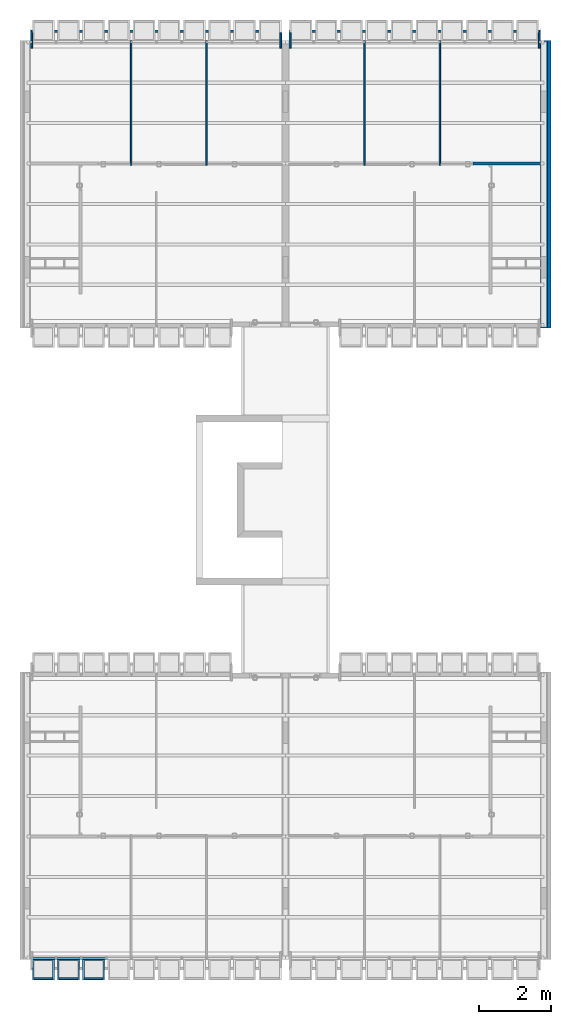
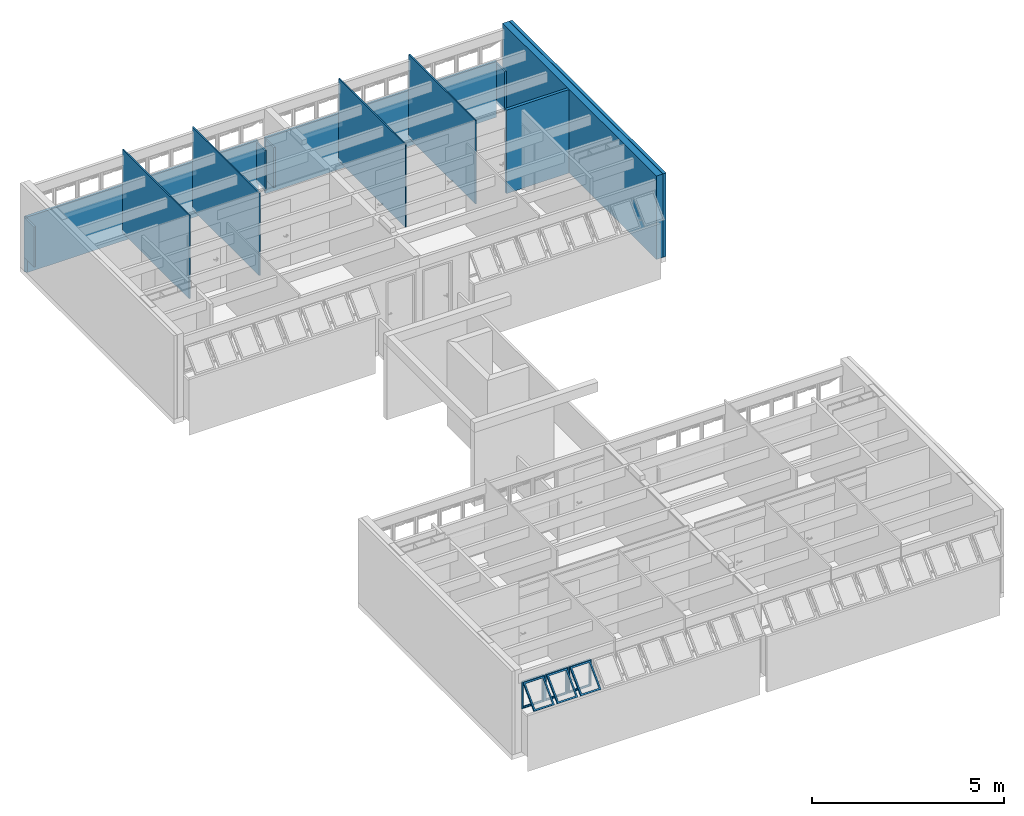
# One storey, part 26 of 37: 13 walls, 3 building element parts, 4 elements without a shape of their own.
"""IFC2X3 building model written with IfcOpenShell, lengths in millimetres."""

from ifc_helpers import new_model, entity, si_unit, converted_unit, derived_unit, money_unit, direction, frame, origin_with_axes, place, context, subcontext, project, spatial, polyline, outline, extrude, faceted_brep, source, transform, mapped, material, layer, layer_set, layer_usage, type_object, element, aggregate, save


model = new_model("IFC2X3")

# Units and contexts
model_context = context("Model", 3, precision=0.01, world=origin_with_axes(), true_north=direction((0.0, 1.0)))
body_context = subcontext(model_context, "Body", "Model", "MODEL_VIEW")
ifc_project = project(units=[si_unit("LENGTHUNIT", "METRE", prefix="MILLI"), si_unit("AREAUNIT", "SQUARE_METRE"), si_unit("VOLUMEUNIT", "CUBIC_METRE"), converted_unit("PLANEANGLEUNIT", "DEGREE", entity("IfcPlaneAngleMeasure", 0.0174532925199), si_unit("PLANEANGLEUNIT", "RADIAN"), dimensions=[0, 0, 0, 0, 0, 0, 0]), money_unit("USD"), converted_unit("TIMEUNIT", "Year", entity("IfcTimeMeasure", 31556926.0), si_unit("TIMEUNIT", "SECOND"), dimensions=[0, 0, 1, 0, 0, 0, 0]), si_unit("MASSUNIT", "GRAM", prefix="KILO"), si_unit("THERMODYNAMICTEMPERATUREUNIT", "DEGREE_CELSIUS"), si_unit("LUMINOUSINTENSITYUNIT", "LUMEN"), si_unit("ENERGYUNIT", "JOULE", prefix="MEGA"), derived_unit("THERMALCONDUCTANCEUNIT", [(si_unit("POWERUNIT", "WATT"), 1), (si_unit("LENGTHUNIT", "METRE"), -1), (si_unit("THERMODYNAMICTEMPERATUREUNIT", "KELVIN"), -1)]), derived_unit("SPECIFICHEATCAPACITYUNIT", [(si_unit("ENERGYUNIT", "JOULE"), 1), (si_unit("MASSUNIT", "GRAM", prefix="KILO"), -1), (si_unit("THERMODYNAMICTEMPERATUREUNIT", "KELVIN"), -1)]), derived_unit("MASSDENSITYUNIT", [(si_unit("MASSUNIT", "GRAM", prefix="KILO"), 1), (si_unit("VOLUMEUNIT", "CUBIC_METRE"), -1)])], contexts=[model_context])

# Site, building, storey
site_placement = place(None, origin_with_axes())
site = spatial("IfcSite", under=ifc_project, at=site_placement, Name="Local", CompositionType="ELEMENT")
building_placement = place(site_placement, origin_with_axes())
building = spatial("IfcBuilding", under=site, at=building_placement, Name="Construção", CompositionType="ELEMENT")
storey_placement = place(building_placement, frame((0.0, 0.0, 5300.0), z_axis=(0.0, 0.0, 1.0), x_axis=(1.0, 0.0, 0.0)))
storey = spatial("IfcBuildingStorey", under=building, at=storey_placement, Name="Terceiro Pavimento", CompositionType="ELEMENT", Elevation=5300.0)

# Walls
ifc_material_1 = material(Name="GENÉRICO - VEDAÇÃO EXTERNA")
ifc_layer_1 = layer(ifc_material_1, 190.0, ventilated="UNKNOWN")
ifc_layer_set_1 = layer_set([ifc_layer_1], Name="GENÉRICO - VEDAÇÃO EXTERNA 190")
ifc_layer_usage_1 = layer_usage(ifc_layer_set_1, "AXIS2", "NEGATIVE", 0.0)
wall_type_1 = type_object("IfcWallType", Name="GENÉRICO - VEDAÇÃO EXTERNA 190", PredefinedType="NOTDEFINED")
wall_1_placement = place(storey_placement, frame((14480.0, 17860.0, 0.0), z_axis=(0.0, 0.0, 1.0), x_axis=(0.0, 1.0, 0.0)))
element("IfcWallStandardCase", 1, at=wall_1_placement, inside=storey, type_object=wall_type_1, material=ifc_layer_usage_1, Name="APTO12-PAREDE-013", context=body_context, shape_type="SweptSolid", body=[
    extrude(outline(polyline([(0.0, -190.0), (8000.0, -190.0), (8000.0, 0.0), (0.0, 0.0), (0.0, -190.0)])), origin_with_axes(), (0.0, 0.0, 1.0), 2650.0),
])
ifc_layer_2 = layer(ifc_material_1, 40.0, ventilated="UNKNOWN")
ifc_layer_set_2 = layer_set([ifc_layer_2], Name="GENÉRICO - VEDAÇÃO EXTERNA 40")
ifc_layer_usage_2 = layer_usage(ifc_layer_set_2, "AXIS2", "POSITIVE", 0.0)
wall_type_2 = type_object("IfcWallType", Name="GENÉRICO - VEDAÇÃO EXTERNA 40", PredefinedType="NOTDEFINED")
wall_2_placement = place(storey_placement, frame((5210.0, 22395.0, 0.0), z_axis=(0.0, 0.0, 1.0), x_axis=(0.0, 1.0, 0.0)))
element("IfcWallStandardCase", 2, at=wall_2_placement, inside=storey, type_object=wall_type_2, material=ifc_layer_usage_2, Name="APTO11-PAREDE-005", context=body_context, shape_type="SweptSolid", body=[
    extrude(outline(polyline([(0.0, 0.0), (3465.0, 0.0), (3465.0, 40.0), (0.0, 40.0), (0.0, 0.0)])), origin_with_axes(), (0.0, 0.0, 1.0), 2620.0),
])
ifc_layer_usage_3 = layer_usage(ifc_layer_set_2, "AXIS2", "POSITIVE", 0.0)
wall_3_placement = place(storey_placement, frame((3110.0, 22395.0, 0.0), z_axis=(0.0, 0.0, 1.0), x_axis=(0.0, 1.0, 0.0)))
element("IfcWallStandardCase", 3, at=wall_3_placement, inside=storey, type_object=wall_type_2, material=ifc_layer_usage_3, Name="APTO11-PAREDE-007", context=body_context, shape_type="SweptSolid", body=[
    extrude(outline(polyline([(0.0, 0.0), (3465.0, 0.0), (3465.0, 40.0), (0.0, 40.0), (0.0, 0.0)])), origin_with_axes(), (0.0, 0.0, 1.0), 2650.0),
])
ifc_layer_usage_4 = layer_usage(ifc_layer_set_2, "AXIS2", "NEGATIVE", 0.0)
wall_4_placement = place(storey_placement, frame((9560.0, 22395.0, 0.0), z_axis=(0.0, 0.0, 1.0), x_axis=(0.0, 1.0, 0.0)))
element("IfcWallStandardCase", 4, at=wall_4_placement, inside=storey, type_object=wall_type_2, material=ifc_layer_usage_4, Name="APTO12-PAREDE-005", context=body_context, shape_type="SweptSolid", body=[
    extrude(outline(polyline([(0.0, -40.0), (3465.0, -40.0), (3465.0, 0.0), (0.0, 0.0), (0.0, -40.0)])), origin_with_axes(), (0.0, 0.0, 1.0), 2620.0),
])
ifc_layer_usage_5 = layer_usage(ifc_layer_set_2, "AXIS2", "NEGATIVE", 0.0)
wall_5_placement = place(storey_placement, frame((11660.0, 22395.0, 0.0), z_axis=(0.0, 0.0, 1.0), x_axis=(0.0, 1.0, 0.0)))
element("IfcWallStandardCase", 5, at=wall_5_placement, inside=storey, type_object=wall_type_2, material=ifc_layer_usage_5, Name="APTO12-PAREDE-007", context=body_context, shape_type="SweptSolid", body=[
    extrude(outline(polyline([(0.0, -40.0), (3465.0, -40.0), (3465.0, 0.0), (0.0, 0.0), (0.0, -40.0)])), origin_with_axes(), (0.0, 0.0, 1.0), 2650.0),
])
ifc_layer_3 = layer(ifc_material_1, 90.0, ventilated="UNKNOWN")
ifc_layer_set_3 = layer_set([ifc_layer_3], Name="GENÉRICO - VEDAÇÃO EXTERNA 90")
ifc_layer_usage_6 = layer_usage(ifc_layer_set_3, "AXIS2", "NEGATIVE", 0.0)
wall_type_3 = type_object("IfcWallType", Name="GENÉRICO - VEDAÇÃO EXTERNA 90", PredefinedType="NOTDEFINED")
wall_6_placement = place(storey_placement, frame((14480.0, 22394.7804333, 0.0), z_axis=(0.0, 0.0, 1.0), x_axis=(-1.0, 0.0, 0.0)))
element("IfcWallStandardCase", 6, at=wall_6_placement, inside=storey, type_object=wall_type_3, material=ifc_layer_usage_6, Name="APTO12-PAREDE-019", context=body_context, shape_type="SweptSolid", body=[
    extrude(outline(polyline([(0.0, -90.0), (1879.99807021, -90.0), (1880.0, 0.0), (0.0, 0.0), (0.0, -90.0)])), origin_with_axes(), (0.0, 0.0, 1.0), 2650.0),
])
ifc_layer_usage_7 = layer_usage(ifc_layer_set_3, "AXIS2", "NEGATIVE", 0.0)
wall_7_placement = place(storey_placement, frame((14680.0, 17860.0, 0.0), z_axis=(0.0, 0.0, 1.0), x_axis=(0.0, 1.0, 0.0)))
element("IfcWallStandardCase", 7, at=wall_7_placement, inside=storey, type_object=wall_type_3, material=ifc_layer_usage_7, Name="APTO12-PAREDE-014", context=body_context, shape_type="SweptSolid", body=[
    extrude(outline(polyline([(0.0, -90.0), (8000.0, -90.0), (8000.0, 0.0), (0.0, 0.0), (0.0, -90.0)])), origin_with_axes(), (0.0, 0.0, 1.0), 2650.0),
])
ifc_material_2 = material(Name="Concreto Armado Moldado in Loco - Estrutural")
ifc_layer_4 = layer(ifc_material_2, 50.0, ventilated="UNKNOWN")
ifc_layer_set_4 = layer_set([ifc_layer_4], Name="Concreto Armado Moldado in Loco - Estrutural 50")
ifc_layer_usage_8 = layer_usage(ifc_layer_set_4, "AXIS2", "POSITIVE", -50.0)
wall_type_4 = type_object("IfcWallType", Name="Concreto Armado Moldado in Loco - Estrutural 50", PredefinedType="NOTDEFINED")
wall_8_placement = place(storey_placement, frame((300.0, 25650.0, 0.0), z_axis=(0.0, 0.0, 1.0), x_axis=(0.0, 1.0, 0.0)))
element("IfcWallStandardCase", 8, at=wall_8_placement, inside=storey, type_object=wall_type_4, material=ifc_layer_usage_8, Name="APTO11-PAREDE-002", context=body_context, shape_type="SweptSolid", body=[
    extrude(outline(polyline([(0.0, -50.0), (430.0, -50.0), (510.0, 0.0), (0.0, 0.0), (0.0, -50.0)])), origin_with_axes(), (0.0, 0.0, 1.0), 1270.0),
])
ifc_layer_usage_9 = layer_usage(ifc_layer_set_4, "AXIS2", "POSITIVE", -50.0)
wall_9_placement = place(storey_placement, frame((7230.0, 25650.0, 0.0), z_axis=(0.0, 0.0, 1.0), x_axis=(0.0, 1.0, 0.0)))
element("IfcWallStandardCase", 9, at=wall_9_placement, inside=storey, type_object=wall_type_4, material=ifc_layer_usage_9, Name="APTO11-PAREDE-001", context=body_context, shape_type="SweptSolid", body=[
    extrude(outline(polyline([(0.0, -50.0), (435.0, -50.0), (435.0, 0.0), (0.0, 0.0), (0.0, -50.0)])), origin_with_axes(), (0.0, 0.0, 1.0), 1270.0),
])
ifc_layer_usage_10 = layer_usage(ifc_layer_set_4, "AXIS2", "NEGATIVE", 50.0)
wall_10_placement = place(storey_placement, frame((14470.0, 25650.0, 0.0), z_axis=(0.0, 0.0, 1.0), x_axis=(0.0, 1.0, 0.0)))
element("IfcWallStandardCase", 10, at=wall_10_placement, inside=storey, type_object=wall_type_4, material=ifc_layer_usage_10, Name="APTO12-PAREDE-002", context=body_context, shape_type="SweptSolid", body=[
    extrude(outline(polyline([(0.0, 0.0), (510.0, 0.0), (430.0, 50.0), (0.0, 50.0), (0.0, 0.0)])), origin_with_axes(), (0.0, 0.0, 1.0), 1270.0),
])
ifc_layer_usage_11 = layer_usage(ifc_layer_set_4, "AXIS2", "NEGATIVE", 50.0)
wall_11_placement = place(storey_placement, frame((7540.0, 25650.0, 0.0), z_axis=(0.0, 0.0, 1.0), x_axis=(0.0, 1.0, 0.0)))
element("IfcWallStandardCase", 11, at=wall_11_placement, inside=storey, type_object=wall_type_4, material=ifc_layer_usage_11, Name="APTO12-PAREDE-001", context=body_context, shape_type="SweptSolid", body=[
    extrude(outline(polyline([(0.0, 0.0), (435.0, 0.0), (435.0, 50.0), (0.0, 50.0), (0.0, 0.0)])), origin_with_axes(), (0.0, 0.0, 1.0), 1270.0),
])
ifc_layer_5 = layer(ifc_material_2, 80.0, ventilated="UNKNOWN")
ifc_layer_set_5 = layer_set([ifc_layer_5], Name="Concreto Armado Moldado in Loco - Estrutural 80")
ifc_layer_usage_12 = layer_usage(ifc_layer_set_5, "AXIS2", "NEGATIVE", 80.0)
wall_type_5 = type_object("IfcWallType", Name="Concreto Armado Moldado in Loco - Estrutural 80", PredefinedType="NOTDEFINED")
wall_12_placement = place(storey_placement, frame((300.0, 26080.0, -450.0), z_axis=(0.0, 0.0, 1.0), x_axis=(1.0, 0.0, 0.0)))
element("IfcWallStandardCase", 12, at=wall_12_placement, inside=storey, type_object=wall_type_5, material=ifc_layer_usage_12, Name="APTO11-PAREDE-015", context=body_context, shape_type="SweptSolid", body=[
    extrude(outline(polyline([(50.0, 0.0), (6980.0, 0.0), (6980.0, 80.0), (0.0, 80.0), (50.0, 0.0)])), origin_with_axes(), (0.0, 0.0, 1.0), 1765.0),
])
ifc_layer_usage_13 = layer_usage(ifc_layer_set_5, "AXIS2", "POSITIVE", -80.0)
wall_13_placement = place(storey_placement, frame((14470.0, 26080.0, -450.0), z_axis=(0.0, 0.0, 1.0), x_axis=(-1.0, 0.0, 0.0)))
element("IfcWallStandardCase", 13, at=wall_13_placement, inside=storey, type_object=wall_type_5, material=ifc_layer_usage_13, Name="APTO12-PAREDE-015", context=body_context, shape_type="SweptSolid", body=[
    extrude(outline(polyline([(0.0, -80.0), (6980.0, -80.0), (6980.0, 0.0), (50.0, 0.0), (0.0, -80.0)])), origin_with_axes(), (0.0, 0.0, 1.0), 1765.0),
])

# Window, plates, building element parts
window_style = type_object("IfcWindowStyle", Name="Tipo de Parede Cortina", ConstructionType="NOTDEFINED", OperationType="NOTDEFINED", ParameterTakesPrecedence=False, Sizeable=False)
window_placement = place(storey_placement, frame((6250.0, 315.020977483, 1355.02054151), z_axis=(0.0, 0.0, 1.0), x_axis=(1.0, 0.0, 0.0)))
window = element("IfcWindow", 14, at=window_placement, inside=storey, type_object=window_style, Name="APTO9-JANELA-001")
plate_type = type_object("IfcPlateType", Name="Painel Principal 690 x 845 x 20", PredefinedType="CURTAIN_PANEL")
plate_1_placement = place(window_placement, frame((-5600.0, 0.0, 422.499945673), z_axis=(0.0, 0.0, 1.0), x_axis=(-1.0, 0.0, 0.0)))
plate_1 = element("IfcPlate", 15, at=plate_1_placement, type_object=plate_type, Name="APTO9-Painel-Prin-013")
ifc_material_3 = material(Name="Alumínio")
shared_shape_1 = source(origin_with_axes(), body_context, "Body", "Brep", [
    faceted_brep([(25.0000036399, 0.0, -40.0), (674.999997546, 0.0, -40.0), (674.999997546, 0.0, -35.0), (25.0000036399, 0.0, -35.0), (70.0000036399, 45.0, -40.0), (629.999997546, 45.0, -40.0), (629.999997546, 45.0, -35.0), (70.0000036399, 45.0, -35.0)], [[[0, 1, 2, 3]], [[0, 4, 5, 1]], [[1, 5, 6, 2]], [[3, 2, 6, 7]], [[4, 0, 3, 7]], [[5, 4, 7, 6]]]),
    faceted_brep([(674.999997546, 0.0, -40.0), (674.999997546, 844.999891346, -40.0), (674.999997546, 844.999891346, -35.0), (674.999997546, 0.0, -35.0), (629.999997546, 45.0, -40.0), (629.999997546, 799.999891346, -40.0), (629.999997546, 799.999891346, -35.0), (629.999997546, 45.0, -35.0)], [[[0, 1, 2, 3]], [[0, 4, 5, 1]], [[1, 5, 6, 2]], [[3, 2, 6, 7]], [[4, 0, 3, 7]], [[5, 4, 7, 6]]]),
    faceted_brep([(25.0000036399, 844.999891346, -40.0), (70.0000036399, 799.999891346, -40.0), (70.0000036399, 799.999891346, -35.0), (25.0000036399, 844.999891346, -35.0), (674.999997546, 844.999891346, -40.0), (629.999997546, 799.999891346, -40.0), (629.999997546, 799.999891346, -35.0), (674.999997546, 844.999891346, -35.0)], [[[0, 1, 2, 3]], [[0, 4, 5, 1]], [[1, 5, 6, 2]], [[3, 2, 6, 7]], [[4, 0, 3, 7]], [[5, 4, 7, 6]]]),
    faceted_brep([(25.0000036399, 0.0, -40.0), (70.0000036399, 45.0, -40.0), (70.0000036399, 45.0, -35.0), (25.0000036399, 0.0, -35.0), (25.0000036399, 844.999891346, -40.0), (70.0000036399, 799.999891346, -40.0), (70.0000036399, 799.999891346, -35.0), (25.0000036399, 844.999891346, -35.0)], [[[0, 1, 2, 3]], [[0, 4, 5, 1]], [[1, 5, 6, 2]], [[3, 2, 6, 7]], [[4, 0, 3, 7]], [[5, 4, 7, 6]]]),
    faceted_brep([(25.0000036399, 0.0, -35.0), (674.999997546, 0.0, -35.0), (674.999997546, 0.0, 15.0), (25.0000036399, 0.0, 15.0), (45.0000036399, 20.0, -35.0), (654.999997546, 20.0, -35.0), (654.999997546, 20.0, 15.0), (45.0000036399, 20.0, 15.0)], [[[0, 1, 2, 3]], [[0, 4, 5, 1]], [[1, 5, 6, 2]], [[3, 2, 6, 7]], [[4, 0, 3, 7]], [[5, 4, 7, 6]]]),
    faceted_brep([(674.999997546, 0.0, -35.0), (674.999997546, 844.999891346, -35.0), (674.999997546, 844.999891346, 15.0), (674.999997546, 0.0, 15.0), (654.999997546, 20.0, -35.0), (654.999997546, 824.999891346, -35.0), (654.999997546, 824.999891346, 15.0), (654.999997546, 20.0, 15.0)], [[[0, 1, 2, 3]], [[0, 4, 5, 1]], [[1, 5, 6, 2]], [[3, 2, 6, 7]], [[4, 0, 3, 7]], [[5, 4, 7, 6]]]),
    faceted_brep([(25.0000036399, 844.999891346, -35.0), (45.0000036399, 824.999891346, -35.0), (45.0000036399, 824.999891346, 15.0), (25.0000036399, 844.999891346, 15.0), (674.999997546, 844.999891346, -35.0), (654.999997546, 824.999891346, -35.0), (654.999997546, 824.999891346, 15.0), (674.999997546, 844.999891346, 15.0)], [[[0, 1, 2, 3]], [[0, 4, 5, 1]], [[1, 5, 6, 2]], [[3, 2, 6, 7]], [[4, 0, 3, 7]], [[5, 4, 7, 6]]]),
    faceted_brep([(25.0000036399, 0.0, -35.0), (45.0000036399, 20.0, -35.0), (45.0000036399, 20.0, 15.0), (25.0000036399, 0.0, 15.0), (25.0000036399, 844.999891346, -35.0), (45.0000036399, 824.999891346, -35.0), (45.0000036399, 824.999891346, 15.0), (25.0000036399, 844.999891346, 15.0)], [[[0, 1, 2, 3]], [[0, 4, 5, 1]], [[1, 5, 6, 2]], [[3, 2, 6, 7]], [[4, 0, 3, 7]], [[5, 4, 7, 6]]]),
    faceted_brep([(694.999995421, 0.0, -10.0), (694.999995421, 844.999891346, -10.0), (694.999995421, 844.999891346, 10.0), (694.999995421, 0.0, 10.0), (674.999997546, 0.0, -10.0), (674.999997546, 844.999891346, -10.0), (674.999997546, 844.999891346, 10.0), (674.999997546, 0.0, 10.0)], [[[0, 1, 2, 3]], [[0, 4, 5, 1]], [[1, 5, 6, 2]], [[3, 2, 6, 7]], [[4, 0, 3, 7]], [[5, 4, 7, 6]]]),
    faceted_brep([(5.00000576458, 844.999891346, -10.0), (5.00000576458, 0.0, -10.0), (5.00000576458, 0.0, 10.0), (5.00000576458, 844.999891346, 10.0), (25.0000036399, 844.999891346, -10.0), (25.0000036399, 0.0, -10.0), (25.0000036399, 0.0, 10.0), (25.0000036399, 844.999891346, 10.0)], [[[0, 1, 2, 3]], [[0, 4, 5, 1]], [[1, 5, 6, 2]], [[3, 2, 6, 7]], [[4, 0, 3, 7]], [[5, 4, 7, 6]]]),
    faceted_brep([(90.0000036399, 252.243475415, 517.045737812), (90.0000036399, 757.824747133, 11.4644660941), (90.0000036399, 796.715620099, 50.3553390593), (90.0000036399, 291.13434838, 555.936610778), (45.0000036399, 220.423670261, 548.865542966), (45.0000036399, 789.644552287, -20.3553390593), (45.0000036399, 828.535425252, 18.5355339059), (45.0000036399, 259.314543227, 587.756415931)], [[[0, 1, 2, 3]], [[0, 4, 5, 1]], [[1, 5, 6, 2]], [[3, 2, 6, 7]], [[4, 0, 3, 7]], [[5, 4, 7, 6]]]),
    faceted_brep([(654.999997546, 220.423670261, 548.865542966), (654.999997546, 789.644552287, -20.3553390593), (654.999997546, 828.535425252, 18.5355339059), (654.999997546, 259.314543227, 587.756415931), (609.999997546, 252.243475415, 517.045737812), (609.999997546, 757.824747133, 11.4644660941), (609.999997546, 796.715620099, 50.3553390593), (609.999997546, 291.13434838, 555.936610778)], [[[0, 1, 2, 3]], [[0, 4, 5, 1]], [[1, 5, 6, 2]], [[3, 2, 6, 7]], [[4, 0, 3, 7]], [[5, 4, 7, 6]]]),
    faceted_brep([(654.999997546, 220.423670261, 548.865542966), (609.999997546, 252.243475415, 517.045737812), (609.999997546, 291.13434838, 555.936610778), (654.999997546, 259.314543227, 587.756415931), (45.0000036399, 220.423670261, 548.865542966), (90.0000036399, 252.243475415, 517.045737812), (90.0000036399, 291.13434838, 555.936610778), (45.0000036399, 259.314543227, 587.756415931)], [[[0, 1, 2, 3]], [[0, 4, 5, 1]], [[1, 5, 6, 2]], [[3, 2, 6, 7]], [[4, 0, 3, 7]], [[5, 4, 7, 6]]]),
    faceted_brep([(45.0000036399, 789.644552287, -20.3553390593), (90.0000036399, 757.824747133, 11.4644660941), (90.0000036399, 796.715620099, 50.3553390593), (45.0000036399, 828.535425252, 18.5355339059), (654.999997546, 789.644552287, -20.3553390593), (609.999997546, 757.824747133, 11.4644660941), (609.999997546, 796.715620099, 50.3553390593), (654.999997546, 828.535425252, 18.5355339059)], [[[0, 1, 2, 3]], [[0, 4, 5, 1]], [[1, 5, 6, 2]], [[3, 2, 6, 7]], [[4, 0, 3, 7]], [[5, 4, 7, 6]]]),
])
building_element_part_1_placement = place(plate_1_placement, origin_with_axes())
building_element_part_1 = element("IfcBuildingElementPart", 16, at=building_element_part_1_placement, material=ifc_material_3, Name="Alumínio", context=body_context, shape_type="MappedRepresentation", body=[
    mapped(shared_shape_1, transform((350.0, 0.0, -422.499945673), x_axis=(-1.0, 0.0, 0.0), y_axis=(0.0, 0.0, 1.0), z_axis=(0.0, 1.0, 0.0))),
])
aggregate(plate_1, [building_element_part_1])
plate_2_placement = place(window_placement, frame((-4900.0, 0.0, 422.499945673), z_axis=(0.0, 0.0, 1.0), x_axis=(-1.0, 0.0, 0.0)))
plate_2 = element("IfcPlate", 17, at=plate_2_placement, type_object=plate_type, Name="APTO9-Painel-Prin-013")
building_element_part_2_placement = place(plate_2_placement, origin_with_axes())
building_element_part_2 = element("IfcBuildingElementPart", 18, at=building_element_part_2_placement, material=ifc_material_3, Name="Alumínio", context=body_context, shape_type="MappedRepresentation", body=[
    mapped(shared_shape_1, transform((350.0, 0.0, -422.499945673), x_axis=(-1.0, 0.0, 0.0), y_axis=(0.0, 0.0, 1.0), z_axis=(0.0, 1.0, 0.0))),
])
aggregate(plate_2, [building_element_part_2])
plate_3_placement = place(window_placement, frame((-4200.0, 0.0, 422.499945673), z_axis=(0.0, 0.0, 1.0), x_axis=(-1.0, 0.0, 0.0)))
plate_3 = element("IfcPlate", 19, at=plate_3_placement, type_object=plate_type, Name="APTO9-Painel-Prin-013")
aggregate(window, [plate_1, plate_2, plate_3])
shared_shape_2 = source(origin_with_axes(), body_context, "Body", "Brep", [
    faceted_brep([(25.0000036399, 0.0, -40.0), (674.999997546, 0.0, -40.0), (674.999997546, 0.0, -35.0), (25.0000036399, 0.0, -35.0), (70.0000036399, 45.0, -40.0), (629.999997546, 45.0, -40.0), (629.999997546, 45.0, -35.0), (70.0000036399, 45.0, -35.0)], [[[0, 1, 2, 3]], [[0, 4, 5, 1]], [[1, 5, 6, 2]], [[3, 2, 6, 7]], [[4, 0, 3, 7]], [[5, 4, 7, 6]]]),
    faceted_brep([(674.999997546, 0.0, -40.0), (674.999997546, 844.999891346, -40.0), (674.999997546, 844.999891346, -35.0), (674.999997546, 0.0, -35.0), (629.999997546, 45.0, -40.0), (629.999997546, 799.999891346, -40.0), (629.999997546, 799.999891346, -35.0), (629.999997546, 45.0, -35.0)], [[[0, 1, 2, 3]], [[0, 4, 5, 1]], [[1, 5, 6, 2]], [[3, 2, 6, 7]], [[4, 0, 3, 7]], [[5, 4, 7, 6]]]),
    faceted_brep([(25.0000036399, 844.999891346, -40.0), (70.0000036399, 799.999891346, -40.0), (70.0000036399, 799.999891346, -35.0), (25.0000036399, 844.999891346, -35.0), (674.999997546, 844.999891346, -40.0), (629.999997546, 799.999891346, -40.0), (629.999997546, 799.999891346, -35.0), (674.999997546, 844.999891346, -35.0)], [[[0, 1, 2, 3]], [[0, 4, 5, 1]], [[1, 5, 6, 2]], [[3, 2, 6, 7]], [[4, 0, 3, 7]], [[5, 4, 7, 6]]]),
    faceted_brep([(25.0000036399, 0.0, -40.0), (70.0000036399, 45.0, -40.0), (70.0000036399, 45.0, -35.0), (25.0000036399, 0.0, -35.0), (25.0000036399, 844.999891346, -40.0), (70.0000036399, 799.999891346, -40.0), (70.0000036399, 799.999891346, -35.0), (25.0000036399, 844.999891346, -35.0)], [[[0, 1, 2, 3]], [[0, 4, 5, 1]], [[1, 5, 6, 2]], [[3, 2, 6, 7]], [[4, 0, 3, 7]], [[5, 4, 7, 6]]]),
    faceted_brep([(25.0000036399, 0.0, -35.0), (674.999997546, 0.0, -35.0), (674.999997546, 0.0, 15.0), (25.0000036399, 0.0, 15.0), (45.0000036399, 20.0, -35.0), (654.999997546, 20.0, -35.0), (654.999997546, 20.0, 15.0), (45.0000036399, 20.0, 15.0)], [[[0, 1, 2, 3]], [[0, 4, 5, 1]], [[1, 5, 6, 2]], [[3, 2, 6, 7]], [[4, 0, 3, 7]], [[5, 4, 7, 6]]]),
    faceted_brep([(674.999997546, 0.0, -35.0), (674.999997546, 844.999891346, -35.0), (674.999997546, 844.999891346, 15.0), (674.999997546, 0.0, 15.0), (654.999997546, 20.0, -35.0), (654.999997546, 824.999891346, -35.0), (654.999997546, 824.999891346, 15.0), (654.999997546, 20.0, 15.0)], [[[0, 1, 2, 3]], [[0, 4, 5, 1]], [[1, 5, 6, 2]], [[3, 2, 6, 7]], [[4, 0, 3, 7]], [[5, 4, 7, 6]]]),
    faceted_brep([(25.0000036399, 844.999891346, -35.0), (45.0000036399, 824.999891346, -35.0), (45.0000036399, 824.999891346, 15.0), (25.0000036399, 844.999891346, 15.0), (674.999997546, 844.999891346, -35.0), (654.999997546, 824.999891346, -35.0), (654.999997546, 824.999891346, 15.0), (674.999997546, 844.999891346, 15.0)], [[[0, 1, 2, 3]], [[0, 4, 5, 1]], [[1, 5, 6, 2]], [[3, 2, 6, 7]], [[4, 0, 3, 7]], [[5, 4, 7, 6]]]),
    faceted_brep([(25.0000036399, 0.0, -35.0), (45.0000036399, 20.0, -35.0), (45.0000036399, 20.0, 15.0), (25.0000036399, 0.0, 15.0), (25.0000036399, 844.999891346, -35.0), (45.0000036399, 824.999891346, -35.0), (45.0000036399, 824.999891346, 15.0), (25.0000036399, 844.999891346, 15.0)], [[[0, 1, 2, 3]], [[0, 4, 5, 1]], [[1, 5, 6, 2]], [[3, 2, 6, 7]], [[4, 0, 3, 7]], [[5, 4, 7, 6]]]),
    faceted_brep([(694.999995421, 0.0, -10.0), (694.999995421, 844.999891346, -10.0), (694.999995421, 844.999891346, 10.0), (694.999995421, 0.0, 10.0), (674.999997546, 0.0, -10.0), (674.999997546, 844.999891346, -10.0), (674.999997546, 844.999891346, 10.0), (674.999997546, 0.0, 10.0)], [[[0, 1, 2, 3]], [[0, 4, 5, 1]], [[1, 5, 6, 2]], [[3, 2, 6, 7]], [[4, 0, 3, 7]], [[5, 4, 7, 6]]]),
    faceted_brep([(5.00000576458, 844.999891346, -10.0), (5.00000576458, 0.0, -10.0), (5.00000576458, 0.0, 10.0), (5.00000576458, 844.999891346, 10.0), (25.0000036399, 844.999891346, -10.0), (25.0000036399, 0.0, -10.0), (25.0000036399, 0.0, 10.0), (25.0000036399, 844.999891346, 10.0)], [[[0, 1, 2, 3]], [[0, 4, 5, 1]], [[1, 5, 6, 2]], [[3, 2, 6, 7]], [[4, 0, 3, 7]], [[5, 4, 7, 6]]]),
    faceted_brep([(90.0000036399, 252.243475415, 517.045737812), (90.0000036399, 757.824747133, 11.4644660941), (90.0000036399, 796.715620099, 50.3553390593), (90.0000036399, 291.13434838, 555.936610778), (45.0000036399, 220.423670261, 548.865542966), (45.0000036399, 789.644552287, -20.3553390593), (45.0000036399, 828.535425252, 18.5355339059), (45.0000036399, 259.314543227, 587.756415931)], [[[0, 1, 2, 3]], [[0, 4, 5, 1]], [[1, 5, 6, 2]], [[3, 2, 6, 7]], [[4, 0, 3, 7]], [[5, 4, 7, 6]]]),
    faceted_brep([(654.999997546, 220.423670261, 548.865542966), (654.999997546, 789.644552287, -20.3553390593), (654.999997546, 828.535425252, 18.5355339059), (654.999997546, 259.314543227, 587.756415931), (609.999997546, 252.243475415, 517.045737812), (609.999997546, 757.824747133, 11.4644660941), (609.999997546, 796.715620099, 50.3553390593), (609.999997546, 291.13434838, 555.936610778)], [[[0, 1, 2, 3]], [[0, 4, 5, 1]], [[1, 5, 6, 2]], [[3, 2, 6, 7]], [[4, 0, 3, 7]], [[5, 4, 7, 6]]]),
    faceted_brep([(654.999997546, 220.423670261, 548.865542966), (609.999997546, 252.243475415, 517.045737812), (609.999997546, 291.13434838, 555.936610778), (654.999997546, 259.314543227, 587.756415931), (45.0000036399, 220.423670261, 548.865542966), (90.0000036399, 252.243475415, 517.045737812), (90.0000036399, 291.13434838, 555.936610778), (45.0000036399, 259.314543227, 587.756415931)], [[[0, 1, 2, 3]], [[0, 4, 5, 1]], [[1, 5, 6, 2]], [[3, 2, 6, 7]], [[4, 0, 3, 7]], [[5, 4, 7, 6]]]),
    faceted_brep([(45.0000036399, 789.644552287, -20.3553390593), (90.0000036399, 757.824747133, 11.4644660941), (90.0000036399, 796.715620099, 50.3553390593), (45.0000036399, 828.535425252, 18.5355339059), (654.999997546, 789.644552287, -20.3553390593), (609.999997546, 757.824747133, 11.4644660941), (609.999997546, 796.715620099, 50.3553390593), (654.999997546, 828.535425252, 18.5355339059)], [[[0, 1, 2, 3]], [[0, 4, 5, 1]], [[1, 5, 6, 2]], [[3, 2, 6, 7]], [[4, 0, 3, 7]], [[5, 4, 7, 6]]]),
])
building_element_part_3_placement = place(plate_3_placement, origin_with_axes())
building_element_part_3 = element("IfcBuildingElementPart", 20, at=building_element_part_3_placement, material=ifc_material_3, Name="Alumínio", context=body_context, shape_type="MappedRepresentation", body=[
    mapped(shared_shape_2, transform((350.0, 0.0, -422.499945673), x_axis=(-1.0, 0.0, 0.0), y_axis=(0.0, 0.0, 1.0), z_axis=(0.0, 1.0, 0.0))),
])
aggregate(plate_3, [building_element_part_3])

save(model, "model.ifc")
